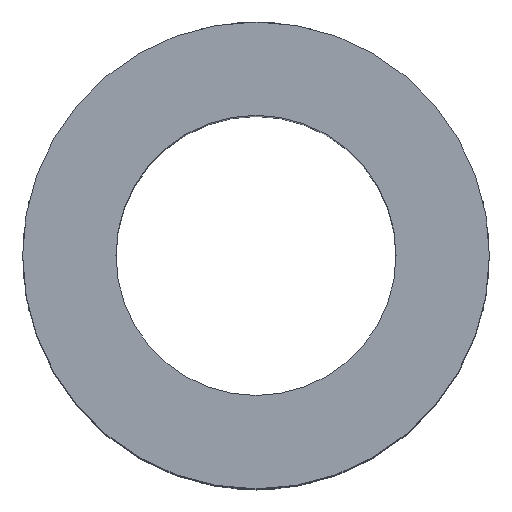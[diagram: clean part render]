
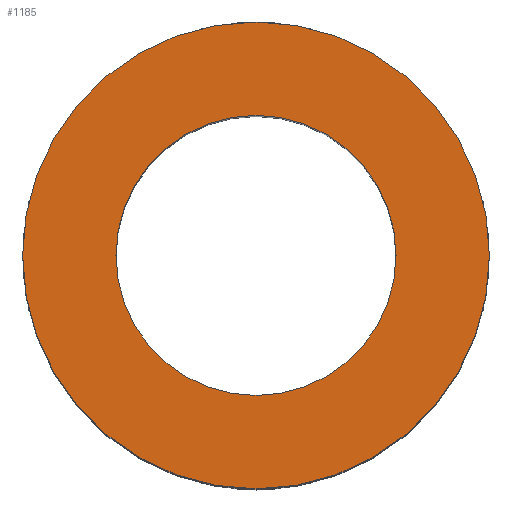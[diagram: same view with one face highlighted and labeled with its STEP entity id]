
A CAD part, top view. The second image highlights one B-rep face of the part: STEP entity #1185.
In plain terms, the highlighted planar face has unit normal (0, 0, 1).
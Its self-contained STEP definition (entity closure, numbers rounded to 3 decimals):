
#51=CARTESIAN_POINT('',(-7.938,0.,22.0));
#52=VERTEX_POINT('',#51);
#68=CARTESIAN_POINT('',(7.938,0.,22.0));
#69=VERTEX_POINT('',#68);
#76=CARTESIAN_POINT('',(0.0,0.0,22.0));
#77=DIRECTION('',(0.0,0.0,-1.0));
#78=DIRECTION('',(-1.0,0.0,0.0));
#79=AXIS2_PLACEMENT_3D('',#76,#77,#78);
#80=CIRCLE('',#79,7.938);
#81=EDGE_CURVE('',#69,#52,#80,.T.);
#91=CARTESIAN_POINT('',(-4.763,0.,22.0));
#92=VERTEX_POINT('',#91);
#101=CARTESIAN_POINT('',(4.763,0.,22.0));
#102=VERTEX_POINT('',#101);
#103=CARTESIAN_POINT('',(0.0,0.0,22.0));
#104=DIRECTION('',(0.0,0.0,-1.0));
#105=DIRECTION('',(-1.0,0.0,0.0));
#106=AXIS2_PLACEMENT_3D('',#103,#104,#105);
#107=CIRCLE('',#106,4.763);
#108=EDGE_CURVE('',#102,#92,#107,.T.);
#1144=CARTESIAN_POINT('',(0.0,0.0,22.0));
#1145=DIRECTION('',(0.0,0.0,-1.0));
#1146=DIRECTION('',(-1.0,0.0,0.0));
#1147=AXIS2_PLACEMENT_3D('',#1144,#1145,#1146);
#1148=CIRCLE('',#1147,4.763);
#1149=EDGE_CURVE('',#92,#102,#1148,.T.);
#1160=CARTESIAN_POINT('',(0.0,0.0,22.0));
#1161=DIRECTION('',(0.0,0.0,-1.0));
#1162=DIRECTION('',(-1.0,0.0,0.0));
#1163=AXIS2_PLACEMENT_3D('',#1160,#1161,#1162);
#1164=CIRCLE('',#1163,7.938);
#1165=EDGE_CURVE('',#52,#69,#1164,.T.);
#1172=CARTESIAN_POINT('',(0.0,0.0,22.0));
#1173=DIRECTION('',(0.0,0.0,-1.0));
#1174=DIRECTION('',(-1.0,0.0,0.0));
#1175=AXIS2_PLACEMENT_3D('',#1172,#1173,#1174);
#1176=PLANE('',#1175);
#1177=ORIENTED_EDGE('',*,*,#81,.F.);
#1178=ORIENTED_EDGE('',*,*,#1165,.F.);
#1179=EDGE_LOOP('',(#1177,#1178));
#1180=FACE_OUTER_BOUND('',#1179,.T.);
#1181=ORIENTED_EDGE('',*,*,#108,.T.);
#1182=ORIENTED_EDGE('',*,*,#1149,.T.);
#1183=EDGE_LOOP('',(#1181,#1182));
#1184=FACE_BOUND('',#1183,.T.);
#1185=ADVANCED_FACE('',(#1180,#1184),#1176,.F.);
